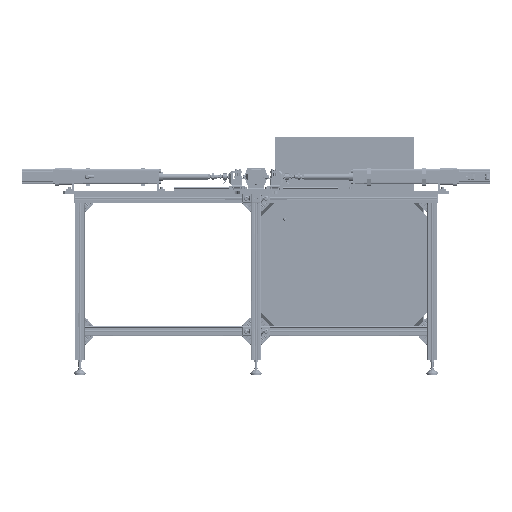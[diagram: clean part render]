
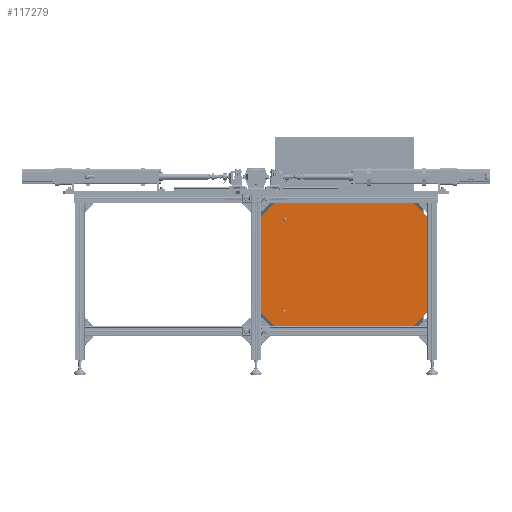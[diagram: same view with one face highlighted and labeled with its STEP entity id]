
A CAD part, left-side view. The second image highlights one B-rep face of the part: STEP entity #117279.
In plain terms, the highlighted planar face has unit normal (-1, 0, 0).
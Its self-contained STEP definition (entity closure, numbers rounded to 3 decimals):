
#56709=FACE_BOUND('',#191807,.T.);
#56710=FACE_BOUND('',#191808,.T.);
#56711=FACE_BOUND('',#191809,.T.);
#74793=PLANE('',#726104);
#117279=ADVANCED_FACE('',(#56709,#56710,#56711),#74793,.T.);
#191807=EDGE_LOOP('',(#351758));
#191808=EDGE_LOOP('',(#351759));
#191809=EDGE_LOOP('',(#351760,#351761,#351762,#351763,#351764,#351765,#351766,
#351767));
#351758=ORIENTED_EDGE('',*,*,#521576,.T.);
#351759=ORIENTED_EDGE('',*,*,#521577,.T.);
#351760=ORIENTED_EDGE('',*,*,#521556,.T.);
#351761=ORIENTED_EDGE('',*,*,#521578,.T.);
#351762=ORIENTED_EDGE('',*,*,#521558,.T.);
#351763=ORIENTED_EDGE('',*,*,#521579,.T.);
#351764=ORIENTED_EDGE('',*,*,#521562,.T.);
#351765=ORIENTED_EDGE('',*,*,#521580,.T.);
#351766=ORIENTED_EDGE('',*,*,#521566,.T.);
#351767=ORIENTED_EDGE('',*,*,#521581,.T.);
#434163=VERTEX_POINT('',#1508473);
#434164=VERTEX_POINT('',#1508475);
#434165=VERTEX_POINT('',#1508479);
#434166=VERTEX_POINT('',#1508480);
#434169=VERTEX_POINT('',#1508488);
#434170=VERTEX_POINT('',#1508489);
#434173=VERTEX_POINT('',#1508497);
#434174=VERTEX_POINT('',#1508498);
#434179=VERTEX_POINT('',#1508515);
#434180=VERTEX_POINT('',#1508517);
#521556=EDGE_CURVE('',#434164,#434163,#587470,.T.);
#521558=EDGE_CURVE('',#434165,#434166,#587472,.T.);
#521562=EDGE_CURVE('',#434169,#434170,#587476,.T.);
#521566=EDGE_CURVE('',#434173,#434174,#587480,.T.);
#521576=EDGE_CURVE('',#434179,#434179,#679754,.T.);
#521577=EDGE_CURVE('',#434180,#434180,#679755,.T.);
#521578=EDGE_CURVE('',#434163,#434165,#587488,.T.);
#521579=EDGE_CURVE('',#434166,#434169,#587489,.T.);
#521580=EDGE_CURVE('',#434170,#434173,#587490,.T.);
#521581=EDGE_CURVE('',#434174,#434164,#587491,.T.);
#587470=LINE('',#1508474,#647339);
#587472=LINE('',#1508478,#647341);
#587476=LINE('',#1508487,#647345);
#587480=LINE('',#1508496,#647349);
#587488=LINE('',#1508518,#647357);
#587489=LINE('',#1508519,#647358);
#587490=LINE('',#1508520,#647359);
#587491=LINE('',#1508521,#647360);
#647339=VECTOR('',#871059,1.);
#647341=VECTOR('',#871063,1.);
#647345=VECTOR('',#871069,1.);
#647349=VECTOR('',#871075,1.);
#647357=VECTOR('',#871095,1.);
#647358=VECTOR('',#871096,1.);
#647359=VECTOR('',#871097,1.);
#647360=VECTOR('',#871098,1.);
#679754=CIRCLE('',#726102,3.5);
#679755=CIRCLE('',#726103,3.5);
#726102=AXIS2_PLACEMENT_3D('',#1508514,#871091,#871092);
#726103=AXIS2_PLACEMENT_3D('',#1508516,#871093,#871094);
#726104=AXIS2_PLACEMENT_3D('',#1508522,#871099,#871100);
#871059=DIRECTION('',(0.,1.,0.));
#871063=DIRECTION('',(0.,0.,-1.));
#871069=DIRECTION('',(0.,-1.,0.));
#871075=DIRECTION('',(0.,0.,1.));
#871091=DIRECTION('',(1.,0.,0.));
#871092=DIRECTION('',(0.,0.,-1.));
#871093=DIRECTION('',(1.,0.,0.));
#871094=DIRECTION('',(0.,0.,-1.));
#871095=DIRECTION('',(0.,0.707,-0.707));
#871096=DIRECTION('',(0.,-0.707,-0.707));
#871097=DIRECTION('',(0.,-0.707,0.707));
#871098=DIRECTION('',(0.,0.707,0.707));
#871099=DIRECTION('',(-1.,0.,0.));
#871100=DIRECTION('',(0.,0.,1.));
#1508473=CARTESIAN_POINT('',(-58.,-354.52,592.23));
#1508474=CARTESIAN_POINT('',(-58.,-987.08,592.23));
#1508475=CARTESIAN_POINT('',(-58.,-907.08,592.23));
#1508478=CARTESIAN_POINT('',(-58.,-274.52,592.23));
#1508479=CARTESIAN_POINT('',(-58.,-274.52,512.23));
#1508480=CARTESIAN_POINT('',(-58.,-274.52,139.67));
#1508487=CARTESIAN_POINT('',(-58.,-274.52,59.67));
#1508488=CARTESIAN_POINT('',(-58.,-354.52,59.67));
#1508489=CARTESIAN_POINT('',(-58.,-907.08,59.67));
#1508496=CARTESIAN_POINT('',(-58.,-987.08,59.67));
#1508497=CARTESIAN_POINT('',(-58.,-987.08,139.67));
#1508498=CARTESIAN_POINT('',(-58.,-987.08,512.23));
#1508514=CARTESIAN_POINT('',(-58.,-383.86,514.951));
#1508515=CARTESIAN_POINT('',(-58.,-383.86,511.451));
#1508516=CARTESIAN_POINT('',(-58.,-383.86,136.951));
#1508517=CARTESIAN_POINT('',(-58.,-383.86,133.451));
#1508518=CARTESIAN_POINT('',(-58.,118.855,118.855));
#1508519=CARTESIAN_POINT('',(-58.,-207.095,207.095));
#1508520=CARTESIAN_POINT('',(-58.,-423.705,-423.705));
#1508521=CARTESIAN_POINT('',(-58.,-749.655,749.655));
#1508522=CARTESIAN_POINT('',(-58.,0.,0.));
